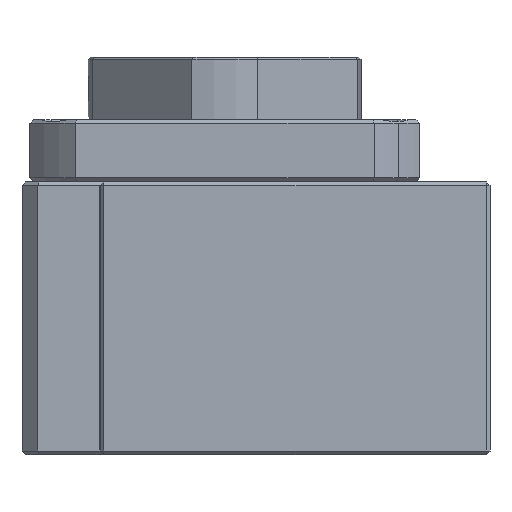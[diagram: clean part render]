
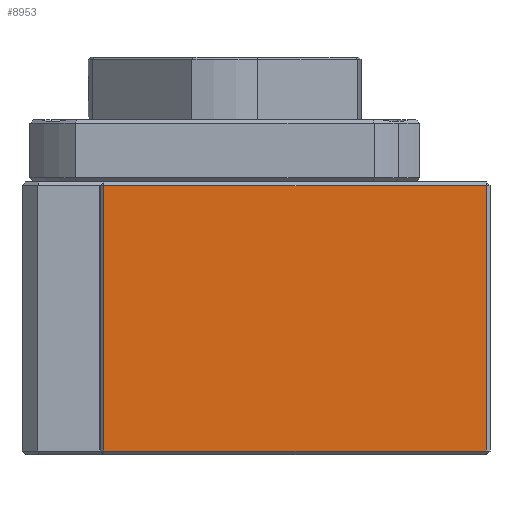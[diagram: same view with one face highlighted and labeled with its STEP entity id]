
A CAD part, left-side view. The second image highlights one B-rep face of the part: STEP entity #8953.
In plain terms, the highlighted planar face has unit normal (-1, 0, 0).
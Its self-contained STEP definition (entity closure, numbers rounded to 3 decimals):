
#644 = EDGE_LOOP ( 'NONE', ( #11990, #11996, #11995, #11997 ) ) ;
#1696 = CARTESIAN_POINT ( 'NONE',  ( -44., 15.5, 17. ) ) ;
#1697 = CARTESIAN_POINT ( 'NONE',  ( -44., 15.5, -17. ) ) ;
#1698 = CARTESIAN_POINT ( 'NONE',  ( -44., -33.5, -17. ) ) ;
#1699 = CARTESIAN_POINT ( 'NONE',  ( -44., -33.5, 17. ) ) ;
#2206 = VECTOR ( 'NONE', #3626, 1000. ) ;
#2207 = VECTOR ( 'NONE', #3629, 1000. ) ;
#2208 = VECTOR ( 'NONE', #3632, 1000. ) ;
#2209 = VECTOR ( 'NONE', #3635, 1000. ) ;
#3624 = LINE ( 'NONE', #3625, #2206 ) ;
#3625 = CARTESIAN_POINT ( 'NONE',  ( -44., 16., -17. ) ) ;
#3626 = DIRECTION ( 'NONE',  ( 0., -1., 0. ) ) ;
#3627 = LINE ( 'NONE', #3628, #2207 ) ;
#3628 = CARTESIAN_POINT ( 'NONE',  ( -44., 15.5, 17.5 ) ) ;
#3629 = DIRECTION ( 'NONE',  ( 0., 0., -1. ) ) ;
#3630 = LINE ( 'NONE', #3631, #2208 ) ;
#3631 = CARTESIAN_POINT ( 'NONE',  ( -44., -33.5, 17.5 ) ) ;
#3632 = DIRECTION ( 'NONE',  ( 0., 0., 1. ) ) ;
#3633 = LINE ( 'NONE', #3634, #2209 ) ;
#3634 = CARTESIAN_POINT ( 'NONE',  ( -44., 16., 17. ) ) ;
#3635 = DIRECTION ( 'NONE',  ( 0., 1., 0. ) ) ;
#6639 = PLANE ( 'NONE',  #11609 ) ;
#6640 = CARTESIAN_POINT ( 'NONE',  ( -44., 16., 17.5 ) ) ;
#6641 = DIRECTION ( 'NONE',  ( 1., 0., 0. ) ) ;
#6642 = DIRECTION ( 'NONE',  ( 0., 1., 0. ) ) ;
#8391 = EDGE_CURVE ( 'NONE', #12631, #12632, #3624, .T. ) ;
#8392 = EDGE_CURVE ( 'NONE', #12630, #12631, #3627, .T. ) ;
#8393 = EDGE_CURVE ( 'NONE', #12632, #12633, #3630, .T. ) ;
#8394 = EDGE_CURVE ( 'NONE', #12633, #12630, #3633, .T. ) ;
#8953 = ADVANCED_FACE ( 'NONE', ( #11591 ), #6639, .F. ) ;
#11591 = FACE_OUTER_BOUND ( 'NONE', #644, .T. ) ;
#11609 = AXIS2_PLACEMENT_3D ( 'NONE', #6640, #6641, #6642 ) ;
#11990 = ORIENTED_EDGE ( 'NONE', *, *, #8392, .T. ) ;
#11995 = ORIENTED_EDGE ( 'NONE', *, *, #8393, .T. ) ;
#11996 = ORIENTED_EDGE ( 'NONE', *, *, #8391, .T. ) ;
#11997 = ORIENTED_EDGE ( 'NONE', *, *, #8394, .T. ) ;
#12630 = VERTEX_POINT ( 'NONE', #1696 ) ;
#12631 = VERTEX_POINT ( 'NONE', #1697 ) ;
#12632 = VERTEX_POINT ( 'NONE', #1698 ) ;
#12633 = VERTEX_POINT ( 'NONE', #1699 ) ;
